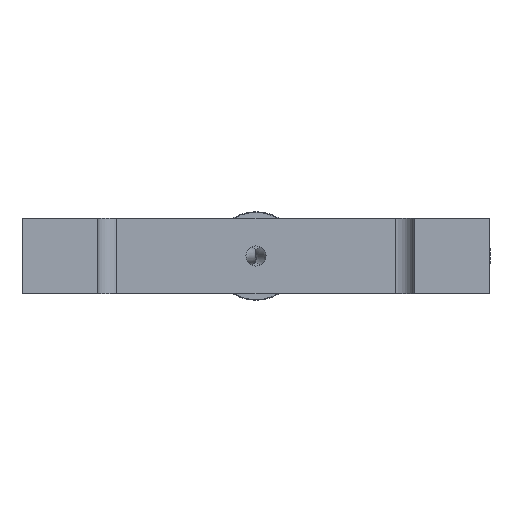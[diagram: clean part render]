
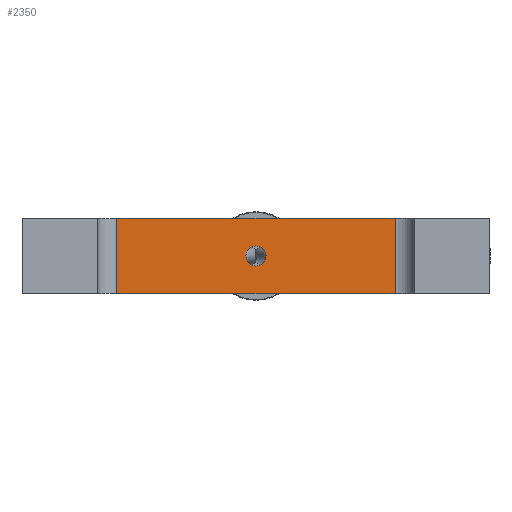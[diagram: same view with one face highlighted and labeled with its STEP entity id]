
A CAD part, left-side view. The second image highlights one B-rep face of the part: STEP entity #2350.
In plain terms, the highlighted planar face has unit normal (-1, 0, 0).
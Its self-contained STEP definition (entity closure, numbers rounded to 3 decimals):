
#112=LINE($,#4261,#200);
#114=LINE($,#4267,#202);
#115=LINE($,#4269,#203);
#116=LINE($,#4270,#204);
#200=VECTOR($,#3333,12.);
#202=VECTOR($,#3339,44.);
#203=VECTOR($,#3340,12.);
#204=VECTOR($,#3341,44.);
#307=PLANE($,#2666);
#402=FACE_BOUND($,#790,.T.);
#403=FACE_BOUND($,#791,.T.);
#790=EDGE_LOOP($,(#1908));
#791=EDGE_LOOP($,(#1909,#1910,#1911,#1912));
#958=CIRCLE($,#2655,1.6);
#1146=VERTEX_POINT($,#4242);
#1153=VERTEX_POINT($,#4258);
#1154=VERTEX_POINT($,#4260);
#1156=VERTEX_POINT($,#4266);
#1157=VERTEX_POINT($,#4268);
#1404=EDGE_CURVE($,#1146,#1146,#958,.T.);
#1411=EDGE_CURVE($,#1153,#1154,#112,.T.);
#1414=EDGE_CURVE($,#1153,#1156,#114,.T.);
#1415=EDGE_CURVE($,#1157,#1156,#115,.T.);
#1416=EDGE_CURVE($,#1157,#1154,#116,.T.);
#1908=ORIENTED_EDGE($,*,*,#1404,.T.);
#1909=ORIENTED_EDGE($,*,*,#1411,.F.);
#1910=ORIENTED_EDGE($,*,*,#1414,.T.);
#1911=ORIENTED_EDGE($,*,*,#1415,.F.);
#1912=ORIENTED_EDGE($,*,*,#1416,.T.);
#2350=ADVANCED_FACE($,(#402,#403),#307,.T.);
#2655=AXIS2_PLACEMENT_3D($,#4243,#3313,#3314);
#2666=AXIS2_PLACEMENT_3D($,#4265,#3337,#3338);
#3313=DIRECTION('center_axis',(1.,0.,0.));
#3314=DIRECTION('ref_axis',(0.,0.,-1.));
#3333=DIRECTION($,(0.,0.,1.));
#3337=DIRECTION('center_axis',(-1.,0.,0.));
#3338=DIRECTION('ref_axis',(0.,0.,1.));
#3339=DIRECTION($,(0.,-1.,0.));
#3340=DIRECTION($,(0.,0.,-1.));
#3341=DIRECTION($,(0.,1.,0.));
#4242=CARTESIAN_POINT('',(27.,0.,7.6));
#4243=CARTESIAN_POINT('Origin',(27.,0.,6.));
#4258=CARTESIAN_POINT('',(27.,22.,0.));
#4260=CARTESIAN_POINT('',(27.,22.,12.));
#4261=CARTESIAN_POINT($,(27.,22.,0.));
#4265=CARTESIAN_POINT('Origin',(27.,-25.,0.));
#4266=CARTESIAN_POINT('',(27.,-22.,0.));
#4267=CARTESIAN_POINT($,(27.,25.,0.));
#4268=CARTESIAN_POINT('',(27.,-22.,12.));
#4269=CARTESIAN_POINT($,(27.,-22.,0.));
#4270=CARTESIAN_POINT($,(27.,25.,12.));
